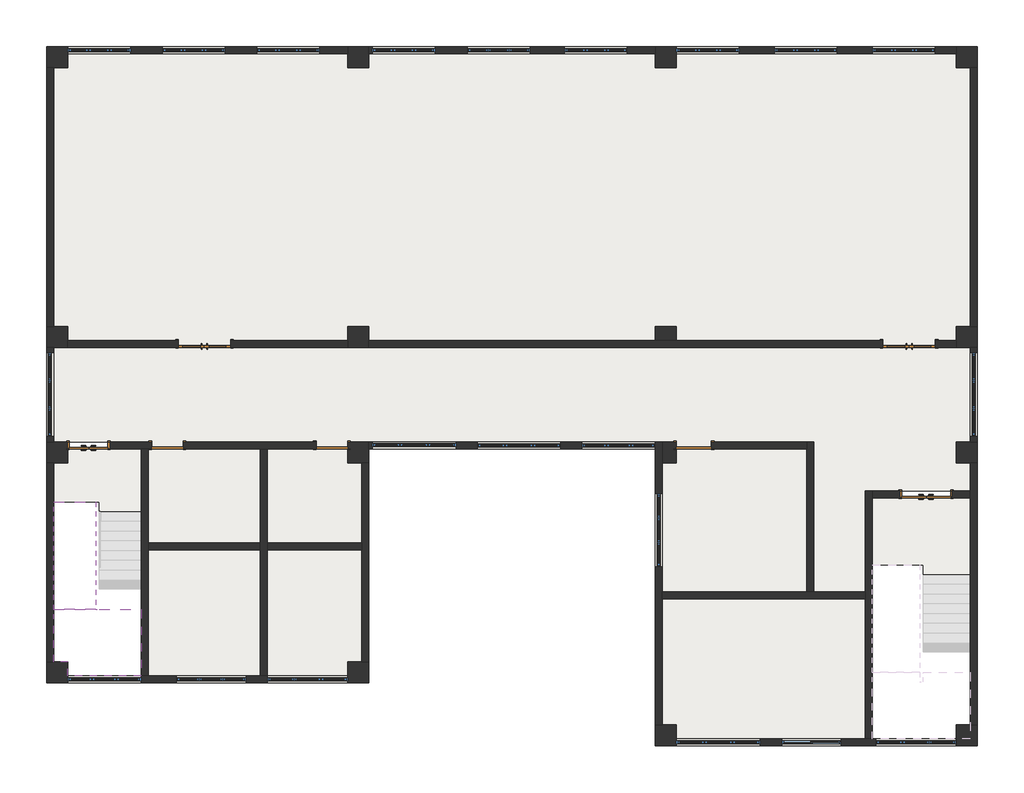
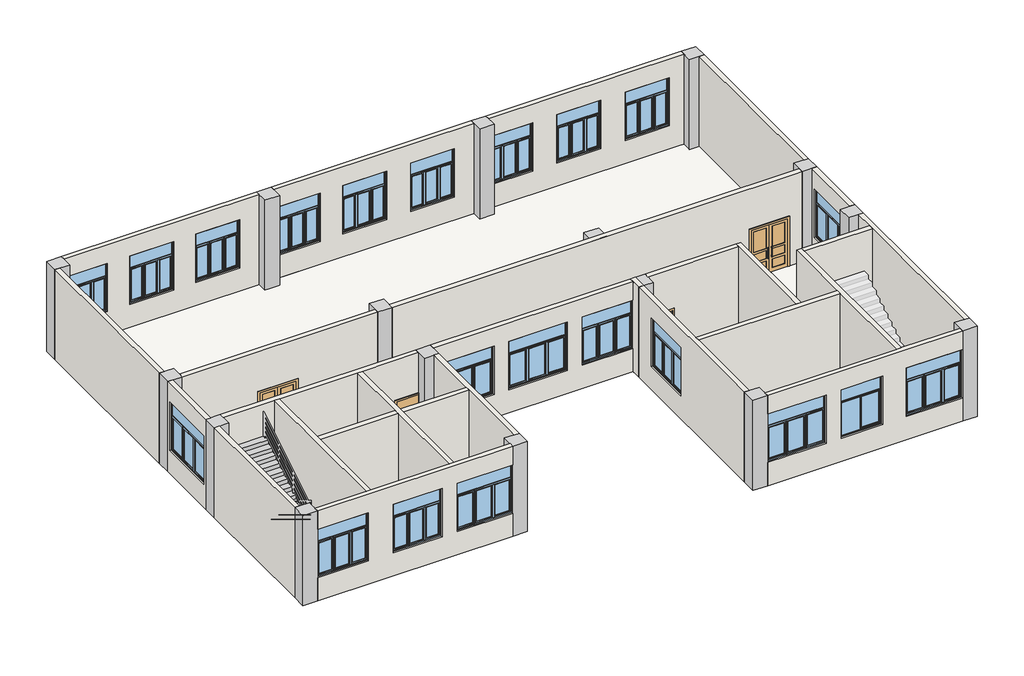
# One storey, part 1 of 3: 25 walls, 21 windows, 16 columns, 7 doors, 4 slabs, 1 stair flight.
"""IFC4 building model written with IfcOpenShell, lengths in millimetres."""

from ifc_helpers import new_model, si_unit, frame, origin, place, context, project, spatial, polyline, outline, extrude, faceted_brep, transform, mapped, element, save
from components import column_600x600_05fc6456, fm1221_e838069c, fm1521_f2745f28, m0921_bb00f214, m0921_8cb0c558, m1021_0d59c61f, m1221_b3a166ca, m1521_8e1836e7, c1721_525d0301, c1821_f95a3a67, c2021_733b1f83, c2121_4e8fcc55, c2321_a531f027, c2421_0f87a412

model = new_model("IFC4")

# Units and contexts
model_context = context("Model", 3, world=origin())
ifc_project = project(units=[si_unit("LENGTHUNIT", "METRE", prefix="MILLI")], contexts=[model_context])

# Site, building, storey
site = spatial("IfcSite", under=ifc_project)
building = spatial("IfcBuilding", under=site)
storey = spatial("IfcBuildingStorey", under=building, Name="标高 5", Elevation=11000.0)

# Columns
placement = place(None, origin())
column_600x600_shape = column_600x600_05fc6456(model_context)
element("IfcColumn", 1, ObjectType="混凝土 - 矩形 - 柱 : 600x600", at=placement, inside=storey, context=model_context, shape_type="MappedRepresentation", body=[
    mapped(column_600x600_shape, transform((-12381.7675258, -8436.6725016, 0.0), x_axis=(1.0, 0.0, 0.0), y_axis=(0.0, 1.0, 0.0), z_axis=(0.0, 0.0, 1.0))),
])
element("IfcColumn", 2, ObjectType="混凝土 - 矩形 - 柱 : 600x600", at=placement, inside=storey, context=model_context, shape_type="MappedRepresentation", body=[
    mapped(column_600x600_shape, transform((-12381.7675258, -2136.6725016, 0.0), x_axis=(1.0, 0.0, 0.0), y_axis=(0.0, 1.0, 0.0), z_axis=(0.0, 0.0, 1.0))),
])
element("IfcColumn", 3, ObjectType="混凝土 - 矩形 - 柱 : 600x600", at=placement, inside=storey, context=model_context, shape_type="MappedRepresentation", body=[
    mapped(column_600x600_shape, transform((-12381.7675258, 1163.3274984, 0.0), x_axis=(1.0, 0.0, 0.0), y_axis=(0.0, 1.0, 0.0), z_axis=(0.0, 0.0, 1.0))),
])
element("IfcColumn", 4, ObjectType="混凝土 - 矩形 - 柱 : 600x600", at=placement, inside=storey, context=model_context, shape_type="MappedRepresentation", body=[
    mapped(column_600x600_shape, transform((-12381.7675258, 9163.3274984, 0.0), x_axis=(1.0, 0.0, 0.0), y_axis=(0.0, 1.0, 0.0), z_axis=(0.0, 0.0, 1.0))),
])
element("IfcColumn", 5, ObjectType="混凝土 - 矩形 - 柱 : 600x600", at=placement, inside=storey, context=model_context, shape_type="MappedRepresentation", body=[
    mapped(column_600x600_shape, transform((-3781.7675258, -8436.6725016, 0.0), x_axis=(1.0, 0.0, 0.0), y_axis=(0.0, 1.0, 0.0), z_axis=(0.0, 0.0, 1.0))),
])
element("IfcColumn", 6, ObjectType="混凝土 - 矩形 - 柱 : 600x600", at=placement, inside=storey, context=model_context, shape_type="MappedRepresentation", body=[
    mapped(column_600x600_shape, transform((-3781.7675258, -2136.6725016, 0.0), x_axis=(1.0, 0.0, 0.0), y_axis=(0.0, 1.0, 0.0), z_axis=(0.0, 0.0, 1.0))),
])
element("IfcColumn", 7, ObjectType="混凝土 - 矩形 - 柱 : 600x600", at=placement, inside=storey, context=model_context, shape_type="MappedRepresentation", body=[
    mapped(column_600x600_shape, transform((-3781.7675258, 1163.3274984, 0.0), x_axis=(1.0, 0.0, 0.0), y_axis=(0.0, 1.0, 0.0), z_axis=(0.0, 0.0, 1.0))),
])
element("IfcColumn", 8, ObjectType="混凝土 - 矩形 - 柱 : 600x600", at=placement, inside=storey, context=model_context, shape_type="MappedRepresentation", body=[
    mapped(column_600x600_shape, transform((-3781.7675258, 9163.3274984, 0.0), x_axis=(1.0, 0.0, 0.0), y_axis=(0.0, 1.0, 0.0), z_axis=(0.0, 0.0, 1.0))),
])
element("IfcColumn", 9, ObjectType="混凝土 - 矩形 - 柱 : 600x600", at=placement, inside=storey, context=model_context, shape_type="MappedRepresentation", body=[
    mapped(column_600x600_shape, transform((5018.2324742, -10236.6725016, 0.0), x_axis=(1.0, 0.0, 0.0), y_axis=(0.0, 1.0, 0.0), z_axis=(0.0, 0.0, 1.0))),
])
element("IfcColumn", 10, ObjectType="混凝土 - 矩形 - 柱 : 600x600", at=placement, inside=storey, context=model_context, shape_type="MappedRepresentation", body=[
    mapped(column_600x600_shape, transform((5018.2324742, -2136.6725016, 0.0), x_axis=(1.0, 0.0, 0.0), y_axis=(0.0, 1.0, 0.0), z_axis=(0.0, 0.0, 1.0))),
])
element("IfcColumn", 11, ObjectType="混凝土 - 矩形 - 柱 : 600x600", at=placement, inside=storey, context=model_context, shape_type="MappedRepresentation", body=[
    mapped(column_600x600_shape, transform((5018.2324742, 1163.3274984, 0.0), x_axis=(1.0, 0.0, 0.0), y_axis=(0.0, 1.0, 0.0), z_axis=(0.0, 0.0, 1.0))),
])
element("IfcColumn", 12, ObjectType="混凝土 - 矩形 - 柱 : 600x600", at=placement, inside=storey, context=model_context, shape_type="MappedRepresentation", body=[
    mapped(column_600x600_shape, transform((5018.2324742, 9163.3274984, 0.0), x_axis=(1.0, 0.0, 0.0), y_axis=(0.0, 1.0, 0.0), z_axis=(0.0, 0.0, 1.0))),
])
element("IfcColumn", 13, ObjectType="混凝土 - 矩形 - 柱 : 600x600", at=placement, inside=storey, context=model_context, shape_type="MappedRepresentation", body=[
    mapped(column_600x600_shape, transform((13618.2324742, -10236.6725016, 0.0), x_axis=(1.0, 0.0, 0.0), y_axis=(0.0, 1.0, 0.0), z_axis=(0.0, 0.0, 1.0))),
])
element("IfcColumn", 14, ObjectType="混凝土 - 矩形 - 柱 : 600x600", at=placement, inside=storey, context=model_context, shape_type="MappedRepresentation", body=[
    mapped(column_600x600_shape, transform((13618.2324742, -2136.6725016, 0.0), x_axis=(1.0, 0.0, 0.0), y_axis=(0.0, 1.0, 0.0), z_axis=(0.0, 0.0, 1.0))),
])
element("IfcColumn", 15, ObjectType="混凝土 - 矩形 - 柱 : 600x600", at=placement, inside=storey, context=model_context, shape_type="MappedRepresentation", body=[
    mapped(column_600x600_shape, transform((13618.2324742, 1163.3274984, 0.0), x_axis=(1.0, 0.0, 0.0), y_axis=(0.0, 1.0, 0.0), z_axis=(0.0, 0.0, 1.0))),
])
element("IfcColumn", 16, ObjectType="混凝土 - 矩形 - 柱 : 600x600", at=placement, inside=storey, context=model_context, shape_type="MappedRepresentation", body=[
    mapped(column_600x600_shape, transform((13618.2324742, 9163.3274984, 0.0), x_axis=(1.0, 0.0, 0.0), y_axis=(0.0, 1.0, 0.0), z_axis=(0.0, 0.0, 1.0))),
])

# Doors
fm1221_shape = fm1221_e838069c(model_context)
element("IfcDoor", 17, ObjectType="双扇防火门 : FM1221", at=placement, inside=storey, context=model_context, shape_type="MappedRepresentation", body=[
    mapped(fm1221_shape, transform((-11481.7675258, -1936.6725016, 11000.0), x_axis=(-1.0, 0.0, 0.0), y_axis=(0.0, -1.0, 0.0), z_axis=(0.0, 0.0, 1.0))),
])
fm1521_shape = fm1521_f2745f28(model_context)
element("IfcDoor", 18, ObjectType="双扇防火门 : FM1521", at=placement, inside=storey, context=model_context, shape_type="MappedRepresentation", body=[
    mapped(fm1521_shape, transform((12448.2324742, -3336.6725016, 11000.0), x_axis=(-1.0, 0.0, 0.0), y_axis=(0.0, -1.0, 0.0), z_axis=(0.0, 0.0, 1.0))),
])
m0921_shape = m0921_bb00f214(model_context)
element("IfcDoor", 19, ObjectType="单扇 - 与墙齐 : M0921", at=placement, inside=storey, context=model_context, shape_type="MappedRepresentation", body=[
    mapped(m0921_shape, transform((-4531.7675258, -1936.6725016, 11000.0), x_axis=(1.0, 0.0, 0.0), y_axis=(0.0, 1.0, 0.0), z_axis=(0.0, 0.0, 1.0))),
])
m0921_2_shape = m0921_8cb0c558(model_context)
element("IfcDoor", 20, ObjectType="单扇 - 与墙齐 : M0921", at=placement, inside=storey, context=model_context, shape_type="MappedRepresentation", body=[
    mapped(m0921_2_shape, transform((-9231.7675258, -1936.6725016, 11000.0), x_axis=(-1.0, 0.0, 0.0), y_axis=(0.0, -1.0, 0.0), z_axis=(0.0, 0.0, 1.0))),
])
m1021_shape = m1021_0d59c61f(model_context)
element("IfcDoor", 21, ObjectType="单扇 - 与墙齐 : M1021", at=placement, inside=storey, context=model_context, shape_type="MappedRepresentation", body=[
    mapped(m1021_shape, transform((5818.2324742, -1936.6725016, 11000.0), x_axis=(-1.0, 0.0, 0.0), y_axis=(0.0, -1.0, 0.0), z_axis=(0.0, 0.0, 1.0))),
])
m1221_shape = m1221_b3a166ca(model_context)
m1521_shape = m1521_8e1836e7(model_context)
element("IfcDoor", 22, ObjectType="双面嵌板木门 2 : M1521", at=placement, inside=storey, context=model_context, shape_type="MappedRepresentation", body=[
    mapped(m1221_shape, transform((-8171.7675258, 963.3274984, 11000.0), x_axis=(-1.0, 0.0, 0.0), y_axis=(0.0, -1.0, 0.0), z_axis=(0.0, 0.0, 1.0))),
    mapped(m1521_shape, transform((-8171.7675258, 963.3274984, 11000.0), x_axis=(-1.0, 0.0, 0.0), y_axis=(0.0, -1.0, 0.0), z_axis=(0.0, 0.0, 1.0))),
])
element("IfcDoor", 23, ObjectType="双面嵌板木门 2 : M1521", at=placement, inside=storey, context=model_context, shape_type="MappedRepresentation", body=[
    mapped(m1221_shape, transform((11968.2324742, 963.3274984, 11000.0), x_axis=(-1.0, 0.0, 0.0), y_axis=(0.0, -1.0, 0.0), z_axis=(0.0, 0.0, 1.0))),
    mapped(m1521_shape, transform((11968.2324742, 963.3274984, 11000.0), x_axis=(-1.0, 0.0, 0.0), y_axis=(0.0, -1.0, 0.0), z_axis=(0.0, 0.0, 1.0))),
])

# Slabs
element("IfcSlab", 24, ObjectType="楼板-120", at=placement, inside=storey, context=model_context, shape_type="SweptSolid", body=[
    extrude(outline(polyline([(13718.2324742, 9263.3274984), (13718.2324742, -3236.6725016), (10718.2324742, -3236.6725016), (10718.2324742, -10336.6725016), (4918.2324742, -10336.6725016), (4918.2324742, -1836.6725016), (-3681.7675258, -1836.6725016), (-3681.7675258, -8536.6725016), (-9781.7675258, -8536.6725016), (-9781.7675258, -1836.6725016), (-12481.7675258, -1836.6725016), (-12481.7675258, 9263.3274984), (13718.2324742, 9263.3274984)])), frame((0.0, 0.0, 10880.0), z_axis=(0.0, 0.0, 1.0), x_axis=(1.0, 0.0, 0.0)), (0.0, 0.0, 1.0), 120.0),
])
element("IfcSlab", 25, ObjectType="楼板-120", at=placement, inside=storey, context=model_context, shape_type="SweptSolid", body=[
    extrude(outline(polyline([(-9987.1675258, -3836.6725016), (-11171.3675258, -3836.6725016), (-11171.3675258, -3556.6725016), (-12476.3675258, -3556.6725016), (-12476.3675258, -2436.6725016), (-12081.7675258, -2436.6725016), (-12081.7675258, -2030.3725016), (-9981.7486258, -2030.3725016), (-9987.1675258, -3836.6725016)])), frame((0.0, 0.0, 10880.0), z_axis=(0.0, 0.0, 1.0), x_axis=(1.0, 0.0, 0.0)), (0.0, 0.0, 1.0), 120.0),
])
element("IfcSlab", 26, ObjectType="楼板-120", at=placement, inside=storey, context=model_context, shape_type="SweptSolid", body=[
    extrude(outline(polyline([(13718.2324742, -3436.6725016), (13718.2324742, -5636.6725016), (12368.2324742, -5636.6725016), (12368.2324742, -5356.6725016), (10913.6324742, -5356.6725016), (10913.6324742, -3436.6725016), (13718.2324742, -3436.6725016)])), frame((0.0, 0.0, 10880.0), z_axis=(0.0, 0.0, 1.0), x_axis=(1.0, 0.0, 0.0)), (0.0, 0.0, 1.0), 120.0),
])
element("IfcSlab", 27, ObjectType="150", at=placement, inside=storey, context=model_context, shape_type="Brep", body=[
    faceted_brep([(-9981.7675258, -6636.6725016, 12865.2173913), (-11181.7675258, -6636.6725016, 12865.2173913), (-11281.7675258, -6636.6725016, 12865.2173913), (-12481.7675258, -6636.6725016, 12865.2173913), (-12481.7675258, -6900.4001578, 12865.2173913), (-12481.7675258, -8136.6725016, 12865.2173913), (-12081.7675258, -8136.6725016, 12865.2173913), (-12081.7675258, -8536.6725016, 12865.2173913), (-9981.7675258, -8536.6725016, 12865.2173913), (-9981.7675258, -6652.9448454, 12865.2173913), (-12481.7675258, -8136.6725016, 12565.2173913), (-12081.7675258, -8136.6725016, 12565.2173913), (-12081.7675258, -8536.6725016, 12565.2173913), (-9981.7675258, -8536.6725016, 12565.2173913), (-9981.7675258, -6636.6725016, 12555.3630216), (-9981.7675258, -6636.6725016, 12695.6521739), (-9981.7675258, -6652.9448454, 12565.2173913), (-12481.7675258, -6636.6725016, 12724.928239), (-12481.7675258, -6900.4001578, 12565.2173913), (-11281.7675258, -6900.4001578, 12565.2173913), (-11281.7675258, -6636.6725016, 12724.928239), (-11181.7675258, -6636.6725016, 12555.3630216), (-11181.7675258, -6636.6725016, 12565.2173913), (-11281.7675258, -6636.6725016, 12565.2173913), (-11181.7675258, -6652.9448454, 12565.2173913)], [[[0, 1, 2, 3, 4, 5, 6, 7, 8, 9]], [[6, 5, 10, 11]], [[7, 6, 11, 12]], [[8, 7, 12, 13]], [[14, 15, 0, 9, 8, 13, 16]], [[3, 17, 18, 10, 5, 4]], [[19, 18, 17, 20]], [[1, 0, 15, 14, 21, 22]], [[2, 1, 22, 23, 20]], [[3, 2, 20, 17]], [[19, 23, 22, 24, 16, 13, 12, 11, 10, 18]], [[23, 19, 20]], [[16, 24, 21, 14]], [[24, 22, 21]]]),
])

# Stair flight
element("IfcStairFlight", 28, ObjectType="150", at=placement, inside=storey, context=model_context, shape_type="Brep", body=[
    faceted_brep([(-12481.7675258, -6356.6725016, 13034.7826087), (-12481.7675258, -6636.6725016, 13034.7826087), (-11281.7675258, -6636.6725016, 13034.7826087), (-11281.7675258, -6356.6725016, 13034.7826087), (-12481.7675258, -6356.6725016, 12894.4934564), (-12481.7675258, -6636.6725016, 12724.928239), (-12481.7675258, -6636.6725016, 12865.2173913), (-11281.7675258, -6636.6725016, 12724.928239), (-11281.7675258, -6356.6725016, 12894.4934564), (-12481.7675258, -6076.6725016, 13204.3478261), (-12481.7675258, -6356.6725016, 13204.3478261), (-11281.7675258, -6356.6725016, 13204.3478261), (-11281.7675258, -6076.6725016, 13204.3478261), (-12481.7675258, -6076.6725016, 13064.0586738), (-11281.7675258, -6076.6725016, 13064.0586738), (-12481.7675258, -5796.6725016, 13373.9130435), (-12481.7675258, -6076.6725016, 13373.9130435), (-11281.7675258, -6076.6725016, 13373.9130435), (-11281.7675258, -5796.6725016, 13373.9130435), (-12481.7675258, -5796.6725016, 13233.6238912), (-11281.7675258, -5796.6725016, 13233.6238912), (-12481.7675258, -5516.6725016, 13543.4782609), (-12481.7675258, -5796.6725016, 13543.4782609), (-11281.7675258, -5796.6725016, 13543.4782609), (-11281.7675258, -5516.6725016, 13543.4782609), (-12481.7675258, -5516.6725016, 13403.1891086), (-11281.7675258, -5516.6725016, 13403.1891086), (-12481.7675258, -5236.6725016, 13713.0434783), (-12481.7675258, -5516.6725016, 13713.0434783), (-11281.7675258, -5516.6725016, 13713.0434783), (-11281.7675258, -5236.6725016, 13713.0434783), (-12481.7675258, -5236.6725016, 13572.754326), (-11281.7675258, -5236.6725016, 13572.754326), (-12481.7675258, -4956.6725016, 13882.6086957), (-12481.7675258, -5236.6725016, 13882.6086957), (-11281.7675258, -5236.6725016, 13882.6086957), (-11281.7675258, -4956.6725016, 13882.6086957), (-12481.7675258, -4956.6725016, 13742.3195433), (-11281.7675258, -4956.6725016, 13742.3195433), (-12481.7675258, -4676.6725016, 14052.173913), (-12481.7675258, -4956.6725016, 14052.173913), (-11281.7675258, -4956.6725016, 14052.173913), (-11281.7675258, -4676.6725016, 14052.173913), (-12481.7675258, -4676.6725016, 13911.8847607), (-11281.7675258, -4676.6725016, 13911.8847607), (-12481.7675258, -4396.6725016, 14221.7391304), (-12481.7675258, -4676.6725016, 14221.7391304), (-11281.7675258, -4676.6725016, 14221.7391304), (-11281.7675258, -4396.6725016, 14221.7391304), (-12481.7675258, -4396.6725016, 14081.4499781), (-11281.7675258, -4396.6725016, 14081.4499781), (-12481.7675258, -4116.6725016, 14391.3043478), (-12481.7675258, -4396.6725016, 14391.3043478), (-11281.7675258, -4396.6725016, 14391.3043478), (-11281.7675258, -4116.6725016, 14391.3043478), (-12481.7675258, -4116.6725016, 14251.0151955), (-11281.7675258, -4116.6725016, 14251.0151955), (-12481.7675258, -3836.6725016, 14560.8695652), (-12481.7675258, -4116.6725016, 14560.8695652), (-11281.7675258, -4116.6725016, 14560.8695652), (-11281.7675258, -3836.6725016, 14560.8695652), (-12481.7675258, -3836.6725016, 14420.5804129), (-11281.7675258, -3836.6725016, 14420.5804129), (-12481.7675258, -3556.6725016, 14730.4347826), (-12481.7675258, -3836.6725016, 14730.4347826), (-11281.7675258, -3836.6725016, 14730.4347826), (-11281.7675258, -3556.6725016, 14730.4347826), (-12481.7675258, -3556.6725016, 14590.1456303), (-11281.7675258, -3556.6725016, 14590.1456303)], [[[0, 1, 2, 3]], [[1, 0, 4, 5, 6]], [[2, 1, 6, 5, 7]], [[3, 2, 7, 8]], [[9, 10, 11, 12]], [[10, 9, 13, 4, 0]], [[11, 10, 0, 3]], [[12, 11, 3, 8, 14]], [[15, 16, 17, 18]], [[16, 15, 19, 13, 9]], [[17, 16, 9, 12]], [[18, 17, 12, 14, 20]], [[21, 22, 23, 24]], [[22, 21, 25, 19, 15]], [[23, 22, 15, 18]], [[24, 23, 18, 20, 26]], [[27, 28, 29, 30]], [[28, 27, 31, 25, 21]], [[29, 28, 21, 24]], [[30, 29, 24, 26, 32]], [[33, 34, 35, 36]], [[34, 33, 37, 31, 27]], [[35, 34, 27, 30]], [[36, 35, 30, 32, 38]], [[39, 40, 41, 42]], [[40, 39, 43, 37, 33]], [[41, 40, 33, 36]], [[42, 41, 36, 38, 44]], [[45, 46, 47, 48]], [[46, 45, 49, 43, 39]], [[47, 46, 39, 42]], [[48, 47, 42, 44, 50]], [[51, 52, 53, 54]], [[52, 51, 55, 49, 45]], [[53, 52, 45, 48]], [[54, 53, 48, 50, 56]], [[57, 58, 59, 60]], [[58, 57, 61, 55, 51]], [[59, 58, 51, 54]], [[60, 59, 54, 56, 62]], [[63, 64, 65, 66]], [[64, 63, 67, 61, 57]], [[65, 64, 57, 60]], [[66, 65, 60, 62, 68]], [[63, 66, 68, 67]], [[5, 4, 13, 19, 25, 31, 37, 43, 49, 55, 61, 67, 68, 62, 56, 50, 44, 38, 32, 26, 20, 14, 8, 7]]]),
])

# Walls
element("IfcWall", 29, ObjectType="Q-200", at=placement, inside=storey, context=model_context, shape_type="SweptSolid", body=[
    extrude(outline(polyline([(14900.0, -12081.7675258), (14100.0, -12081.7675258), (14100.0, -10281.7675258), (12000.0, -10281.7675258), (12000.0, -12081.7675258), (11000.0, -12081.7675258), (11000.0, -4081.7675258), (14900.0, -4081.7675258), (14900.0, -12081.7675258)]), holes=[polyline([(12000.0, -6681.7675258), (14100.0, -6681.7675258), (14100.0, -4881.7675258), (12000.0, -4881.7675258), (12000.0, -6681.7675258)]), polyline([(12000.0, -9381.7675258), (14100.0, -9381.7675258), (14100.0, -7581.7675258), (12000.0, -7581.7675258), (12000.0, -9381.7675258)])]), frame((0.0, 9263.3274984, 0.0), z_axis=(0.0, 1.0, 0.0), x_axis=(0.0, 0.0, 1.0)), (0.0, 0.0, 1.0), 200.0),
])
element("IfcWall", 30, ObjectType="Q-200", at=placement, inside=storey, context=model_context, shape_type="SweptSolid", body=[
    extrude(outline(polyline([(11000.0, -3481.7675258), (11000.0, 4718.2324742), (14900.0, 4718.2324742), (14900.0, -3481.7675258), (11000.0, -3481.7675258)]), holes=[polyline([(12000.0, 2118.2324742), (14100.0, 2118.2324742), (14100.0, 3918.2324742), (12000.0, 3918.2324742), (12000.0, 2118.2324742)]), polyline([(12000.0, -661.7675258), (14100.0, -661.7675258), (14100.0, 1138.2324742), (12000.0, 1138.2324742), (12000.0, -661.7675258)]), polyline([(12000.0, -3381.7675258), (14100.0, -3381.7675258), (14100.0, -1581.7675258), (12000.0, -1581.7675258), (12000.0, -3381.7675258)])]), frame((0.0, 9263.3274984, 0.0), z_axis=(0.0, 1.0, 0.0), x_axis=(0.0, 0.0, 1.0)), (0.0, 0.0, 1.0), 200.0),
])
element("IfcWall", 31, ObjectType="Q-200", at=placement, inside=storey, context=model_context, shape_type="SweptSolid", body=[
    extrude(outline(polyline([(11000.0, 5318.2324742), (11000.0, 13318.2324742), (14900.0, 13318.2324742), (14900.0, 5318.2324742), (14100.0, 5318.2324742), (14100.0, 7118.2324742), (12000.0, 7118.2324742), (12000.0, 5318.2324742), (11000.0, 5318.2324742)]), holes=[polyline([(12000.0, 10918.2324742), (14100.0, 10918.2324742), (14100.0, 12718.2324742), (12000.0, 12718.2324742), (12000.0, 10918.2324742)]), polyline([(12000.0, 8118.2324742), (14100.0, 8118.2324742), (14100.0, 9918.2324742), (12000.0, 9918.2324742), (12000.0, 8118.2324742)])]), frame((0.0, 9263.3274984, 0.0), z_axis=(0.0, 1.0, 0.0), x_axis=(0.0, 0.0, 1.0)), (0.0, 0.0, 1.0), 200.0),
])
element("IfcWall", 32, ObjectType="Q-200", at=placement, inside=storey, context=model_context, shape_type="SweptSolid", body=[
    extrude(outline(polyline([(13718.2324742, 1463.3274984), (13718.2324742, 8863.3274984), (13918.2324742, 8863.3274984), (13918.2324742, 1463.3274984), (13718.2324742, 1463.3274984)])), frame((0.0, 0.0, 11000.0), z_axis=(0.0, 0.0, 1.0), x_axis=(1.0, 0.0, 0.0)), (0.0, 0.0, 1.0), 3900.0),
])
element("IfcWall", 33, ObjectType="Q-200", at=placement, inside=storey, context=model_context, shape_type="SweptSolid", body=[
    extrude(outline(polyline([(863.3274984, 11000.0), (-1836.6725016, 11000.0), (-1836.6725016, 14900.0), (863.3274984, 14900.0), (863.3274984, 11000.0)]), holes=[polyline([(713.3274984, 12000.0), (713.3274984, 14100.0), (-1686.6725016, 14100.0), (-1686.6725016, 12000.0), (713.3274984, 12000.0)])]), frame((13718.2324742, 0.0, 0.0), z_axis=(1.0, 0.0, 0.0), x_axis=(0.0, 1.0, 0.0)), (0.0, 0.0, 1.0), 200.0),
])
element("IfcWall", 34, ObjectType="Q-200", at=placement, inside=storey, context=model_context, shape_type="Brep", body=[
    faceted_brep([(13718.2324742, -2436.6725016, 11000.0), (13718.2324742, -3236.6725016, 11000.0), (13718.2324742, -3436.6725016, 11000.0), (13718.2324742, -9936.6725016, 11000.0), (13718.2324742, -9936.6725016, 14900.0), (13718.2324742, -3436.6725016, 14900.0), (13718.2324742, -3236.6725016, 14900.0), (13718.2324742, -2436.6725016, 14900.0), (13918.2324742, -2436.6725016, 11000.0), (13918.2324742, -2436.6725016, 14900.0), (13918.2324742, -9936.6725016, 14900.0), (13918.2324742, -9936.6725016, 11000.0)], [[[0, 1, 2, 3, 4, 5, 6, 7]], [[8, 9, 10, 11]], [[3, 2, 1, 0, 8, 11]], [[4, 3, 11, 10]], [[7, 6, 5, 4, 10, 9]], [[0, 7, 9, 8]]]),
])
element("IfcWall", 35, ObjectType="Q-200", at=placement, inside=storey, context=model_context, shape_type="Brep", body=[
    faceted_brep([(5318.2324742, -10336.6725016, 11000.0), (5318.2324742, -10336.6725016, 12000.0), (7718.2324742, -10336.6725016, 12000.0), (7718.2324742, -10336.6725016, 14100.0), (5318.2324742, -10336.6725016, 14100.0), (5318.2324742, -10336.6725016, 14900.0), (10718.2324742, -10336.6725016, 14900.0), (10918.2324742, -10336.6725016, 14900.0), (13318.2324742, -10336.6725016, 14900.0), (13318.2324742, -10336.6725016, 11000.0), (10918.2324742, -10336.6725016, 11000.0), (10718.2324742, -10336.6725016, 11000.0), (13308.2324742, -10336.6725016, 12000.0), (13308.2324742, -10336.6725016, 14100.0), (11008.2324742, -10336.6725016, 14100.0), (11008.2324742, -10336.6725016, 12000.0), (10028.2324742, -10336.6725016, 12000.0), (10028.2324742, -10336.6725016, 14100.0), (8328.2324742, -10336.6725016, 14100.0), (8328.2324742, -10336.6725016, 12000.0), (7718.2324742, -10536.6725016, 12000.0), (5318.2324742, -10536.6725016, 12000.0), (5318.2324742, -10536.6725016, 11000.0), (13318.2324742, -10536.6725016, 11000.0), (13318.2324742, -10536.6725016, 14900.0), (5318.2324742, -10536.6725016, 14900.0), (5318.2324742, -10536.6725016, 14100.0), (7718.2324742, -10536.6725016, 14100.0), (13308.2324742, -10536.6725016, 12000.0), (11008.2324742, -10536.6725016, 12000.0), (11008.2324742, -10536.6725016, 14100.0), (13308.2324742, -10536.6725016, 14100.0), (10028.2324742, -10536.6725016, 12000.0), (8328.2324742, -10536.6725016, 12000.0), (8328.2324742, -10536.6725016, 14100.0), (10028.2324742, -10536.6725016, 14100.0)], [[[0, 1, 2, 3, 4, 5, 6, 7, 8, 9, 10, 11], [12, 13, 14, 15], [16, 17, 18, 19]], [[20, 21, 22, 23, 24, 25, 26, 27], [28, 29, 30, 31], [32, 33, 34, 35]], [[0, 11, 10, 9, 23, 22]], [[26, 25, 5, 4]], [[22, 21, 1, 0]], [[8, 7, 6, 5, 25, 24]], [[9, 8, 24, 23]], [[3, 2, 20, 27]], [[4, 3, 27, 26]], [[2, 1, 21, 20]], [[13, 12, 28, 31]], [[14, 13, 31, 30]], [[15, 14, 30, 29]], [[12, 15, 29, 28]], [[17, 16, 32, 35]], [[18, 17, 35, 34]], [[19, 18, 34, 33]], [[16, 19, 33, 32]]]),
])
element("IfcWall", 36, ObjectType="Q-200", at=placement, inside=storey, context=model_context, shape_type="Brep", body=[
    faceted_brep([(4918.2324742, -9936.6725016, 11000.0), (4918.2324742, -6336.6725016, 11000.0), (4918.2324742, -6136.6725016, 11000.0), (4918.2324742, -1836.6725016, 11000.0), (4918.2324742, -1836.6725016, 14900.0), (4918.2324742, -6136.6725016, 14900.0), (4918.2324742, -6336.6725016, 14900.0), (4918.2324742, -9936.6725016, 14900.0), (4918.2324742, -3316.6725016, 12000.0), (4918.2324742, -5416.6725016, 12000.0), (4918.2324742, -5416.6725016, 14100.0), (4918.2324742, -3316.6725016, 14100.0), (4718.2324742, -9936.6725016, 11000.0), (4718.2324742, -9936.6725016, 14900.0), (4718.2324742, -2036.6725016, 14900.0), (4718.2324742, -1836.6725016, 14900.0), (4718.2324742, -1836.6725016, 14100.0), (4718.2324742, -1836.6725016, 12000.0), (4718.2324742, -1836.6725016, 11000.0), (4718.2324742, -2036.6725016, 11000.0), (4718.2324742, -3316.6725016, 12000.0), (4718.2324742, -3316.6725016, 14100.0), (4718.2324742, -5416.6725016, 14100.0), (4718.2324742, -5416.6725016, 12000.0)], [[[0, 1, 2, 3, 4, 5, 6, 7], [8, 9, 10, 11]], [[12, 13, 14, 15, 16, 17, 18, 19], [20, 21, 22, 23]], [[3, 2, 1, 0, 12, 19, 18]], [[7, 6, 5, 4, 15, 14, 13]], [[0, 7, 13, 12]], [[4, 3, 18, 17, 16, 15]], [[21, 20, 8, 11]], [[22, 21, 11, 10]], [[23, 22, 10, 9]], [[20, 23, 9, 8]]]),
])
element("IfcWall", 37, ObjectType="Q-200", at=placement, inside=storey, context=model_context, shape_type="SweptSolid", body=[
    extrude(outline(polyline([(11000.0, 4718.2324742), (12000.0, 4718.2324742), (12000.0, 2618.2324742), (14100.0, 2618.2324742), (14100.0, 4718.2324742), (14900.0, 4718.2324742), (14900.0, -3481.7675258), (11000.0, -3481.7675258), (11000.0, 4718.2324742)]), holes=[polyline([(12000.0, -981.7675258), (12000.0, -3381.7675258), (14100.0, -3381.7675258), (14100.0, -981.7675258), (12000.0, -981.7675258)]), polyline([(12000.0, -381.7675258), (14100.0, -381.7675258), (14100.0, 2018.2324742), (12000.0, 2018.2324742), (12000.0, -381.7675258)])]), frame((0.0, -2036.6725016, 0.0), z_axis=(0.0, 1.0, 0.0), x_axis=(0.0, 0.0, 1.0)), (0.0, 0.0, 1.0), 200.0),
])
element("IfcWall", 38, ObjectType="Q-200", at=placement, inside=storey, context=model_context, shape_type="Brep", body=[
    faceted_brep([(-3681.7675258, -2436.6725016, 11000.0), (-3681.7675258, -4736.6725016, 11000.0), (-3681.7675258, -4936.6725016, 11000.0), (-3681.7675258, -8136.6725016, 11000.0), (-3681.7675258, -8136.6725016, 14900.0), (-3681.7675258, -4936.6725016, 14900.0), (-3681.7675258, -4736.6725016, 14900.0), (-3681.7675258, -2436.6725016, 14900.0), (-3481.7675258, -2436.6725016, 11000.0), (-3481.7675258, -2436.6725016, 14900.0), (-3481.7675258, -8136.6725016, 14900.0), (-3481.7675258, -8136.6725016, 11000.0)], [[[0, 1, 2, 3, 4, 5, 6, 7]], [[8, 9, 10, 11]], [[3, 2, 1, 0, 8, 11]], [[4, 3, 11, 10]], [[7, 6, 5, 4, 10, 9]], [[0, 7, 9, 8]]]),
])
element("IfcWall", 39, ObjectType="Q-200", at=placement, inside=storey, context=model_context, shape_type="Brep", body=[
    faceted_brep([(-12081.7675258, -8536.6725016, 11000.0), (-12081.7675258, -8536.6725016, 12000.0), (-9981.7675258, -8536.6725016, 12000.0), (-9981.7675258, -8536.6725016, 14100.0), (-12081.7675258, -8536.6725016, 14100.0), (-12081.7675258, -8536.6725016, 14900.0), (-9981.7675258, -8536.6725016, 14900.0), (-9781.7675258, -8536.6725016, 14900.0), (-6581.7675258, -8536.6725016, 14900.0), (-6381.7675258, -8536.6725016, 14900.0), (-4081.7675258, -8536.6725016, 14900.0), (-4081.7675258, -8536.6725016, 14100.0), (-6373.5634478, -8536.6725016, 14100.0), (-6373.5634478, -8536.6725016, 12000.0), (-4081.7675258, -8536.6725016, 12000.0), (-4081.7675258, -8536.6725016, 11000.0), (-6381.7675258, -8536.6725016, 11000.0), (-6581.7675258, -8536.6725016, 11000.0), (-9781.7675258, -8536.6725016, 11000.0), (-9981.7675258, -8536.6725016, 11000.0), (-6981.7675258, -8536.6725016, 12000.0), (-6981.7675258, -8536.6725016, 14100.0), (-8981.7675258, -8536.6725016, 14100.0), (-8981.7675258, -8536.6725016, 12000.0), (-9981.7675258, -8736.6725016, 12000.0), (-12081.7675258, -8736.6725016, 12000.0), (-12081.7675258, -8736.6725016, 11000.0), (-4081.7675258, -8736.6725016, 11000.0), (-4081.7675258, -8736.6725016, 12000.0), (-6373.5634478, -8736.6725016, 12000.0), (-6373.5634478, -8736.6725016, 14100.0), (-4081.7675258, -8736.6725016, 14100.0), (-4081.7675258, -8736.6725016, 14900.0), (-12081.7675258, -8736.6725016, 14900.0), (-12081.7675258, -8736.6725016, 14100.0), (-9981.7675258, -8736.6725016, 14100.0), (-6981.7675258, -8736.6725016, 12000.0), (-8981.7675258, -8736.6725016, 12000.0), (-8981.7675258, -8736.6725016, 14100.0), (-6981.7675258, -8736.6725016, 14100.0)], [[[0, 1, 2, 3, 4, 5, 6, 7, 8, 9, 10, 11, 12, 13, 14, 15, 16, 17, 18, 19], [20, 21, 22, 23]], [[24, 25, 26, 27, 28, 29, 30, 31, 32, 33, 34, 35], [36, 37, 38, 39]], [[0, 19, 18, 17, 16, 15, 27, 26]], [[34, 33, 5, 4]], [[26, 25, 1, 0]], [[10, 9, 8, 7, 6, 5, 33, 32]], [[10, 32, 31, 11]], [[27, 15, 14, 28]], [[30, 12, 11, 31]], [[12, 30, 29, 13]], [[13, 29, 28, 14]], [[21, 20, 36, 39]], [[22, 21, 39, 38]], [[23, 22, 38, 37]], [[20, 23, 37, 36]], [[3, 2, 24, 35]], [[4, 3, 35, 34]], [[2, 1, 25, 24]]]),
])
element("IfcWall", 40, ObjectType="Q-200", at=placement, inside=storey, context=model_context, shape_type="SweptSolid", body=[
    extrude(outline(polyline([(-12481.7675258, -2436.6725016), (-12481.7675258, -8136.6725016), (-12681.7675258, -8136.6725016), (-12681.7675258, -2436.6725016), (-12481.7675258, -2436.6725016)])), frame((0.0, 0.0, 11000.0), z_axis=(0.0, 0.0, 1.0), x_axis=(1.0, 0.0, 0.0)), (0.0, 0.0, 1.0), 3900.0),
])
element("IfcWall", 41, ObjectType="Q-200", at=placement, inside=storey, context=model_context, shape_type="SweptSolid", body=[
    extrude(outline(polyline([(-1836.6725016, 11000.0), (-1836.6725016, 14900.0), (863.3274984, 14900.0), (863.3274984, 11000.0), (-1836.6725016, 11000.0)]), holes=[polyline([(713.3274984, 12000.0), (713.3274984, 14100.0), (-1686.6725016, 14100.0), (-1686.6725016, 12000.0), (713.3274984, 12000.0)])]), frame((-12681.7675258, 0.0, 0.0), z_axis=(1.0, 0.0, 0.0), x_axis=(0.0, 1.0, 0.0)), (0.0, 0.0, 1.0), 200.0),
])
element("IfcWall", 42, ObjectType="Q-200", at=placement, inside=storey, context=model_context, shape_type="SweptSolid", body=[
    extrude(outline(polyline([(-12481.7675258, 8863.3274984), (-12481.7675258, 1463.3274984), (-12681.7675258, 1463.3274984), (-12681.7675258, 8863.3274984), (-12481.7675258, 8863.3274984)])), frame((0.0, 0.0, 11000.0), z_axis=(0.0, 0.0, 1.0), x_axis=(1.0, 0.0, 0.0)), (0.0, 0.0, 1.0), 3900.0),
])
element("IfcWall", 43, ObjectType="Q-200", at=placement, inside=storey, context=model_context, shape_type="SweptSolid", body=[
    extrude(outline(polyline([(11000.0, -4081.7675258), (14900.0, -4081.7675258), (14900.0, -12081.7675258), (11000.0, -12081.7675258), (11000.0, -8921.7675258), (13100.0, -8921.7675258), (13100.0, -7421.7675258), (11000.0, -7421.7675258), (11000.0, -4081.7675258)])), frame((0.0, 863.3274984, 0.0), z_axis=(0.0, 1.0, 0.0), x_axis=(0.0, 0.0, 1.0)), (0.0, 0.0, 1.0), 200.0),
])
element("IfcWall", 44, ObjectType="Q-200", at=placement, inside=storey, context=model_context, shape_type="SweptSolid", body=[
    extrude(outline(polyline([(11000.0, 13318.2324742), (14900.0, 13318.2324742), (14900.0, -3481.7675258), (11000.0, -3481.7675258), (11000.0, 11218.2324742), (13100.0, 11218.2324742), (13100.0, 12718.2324742), (11000.0, 12718.2324742), (11000.0, 13318.2324742)])), frame((0.0, 863.3274984, 0.0), z_axis=(0.0, 1.0, 0.0), x_axis=(0.0, 0.0, 1.0)), (0.0, 0.0, 1.0), 200.0),
])
element("IfcWall", 45, ObjectType="Q-200", at=placement, inside=storey, context=model_context, shape_type="Brep", body=[
    faceted_brep([(-4081.7675258, -2036.6725016, 14900.0), (-6381.7675258, -2036.6725016, 14900.0), (-6581.7675258, -2036.6725016, 14900.0), (-9781.7675258, -2036.6725016, 14900.0), (-9981.7675258, -2036.6725016, 14900.0), (-12081.7675258, -2036.6725016, 14900.0), (-12081.7675258, -2036.6725016, 13100.0), (-10881.7675258, -2036.6725016, 13100.0), (-10881.7675258, -2036.6725016, 11000.0), (-9981.7675258, -2036.6725016, 11000.0), (-9781.7675258, -2036.6725016, 11000.0), (-9681.7675258, -2036.6725016, 11000.0), (-9681.7675258, -2036.6725016, 13100.0), (-8781.7675258, -2036.6725016, 13100.0), (-8781.7675258, -2036.6725016, 11000.0), (-6581.7675258, -2036.6725016, 11000.0), (-6381.7675258, -2036.6725016, 11000.0), (-4981.7675258, -2036.6725016, 11000.0), (-4981.7675258, -2036.6725016, 13100.0), (-4081.7675258, -2036.6725016, 13100.0), (-12081.7675258, -1836.6725016, 14900.0), (-4081.7675258, -1836.6725016, 14900.0), (-4081.7675258, -1836.6725016, 13100.0), (-4981.7675258, -1836.6725016, 13100.0), (-4981.7675258, -1836.6725016, 11000.0), (-8781.7675258, -1836.6725016, 11000.0), (-8781.7675258, -1836.6725016, 13100.0), (-9681.7675258, -1836.6725016, 13100.0), (-9681.7675258, -1836.6725016, 11000.0), (-10881.7675258, -1836.6725016, 11000.0), (-10881.7675258, -1836.6725016, 13100.0), (-12081.7675258, -1836.6725016, 13100.0)], [[[0, 1, 2, 3, 4, 5, 6, 7, 8, 9, 10, 11, 12, 13, 14, 15, 16, 17, 18, 19]], [[20, 21, 22, 23, 24, 25, 26, 27, 28, 29, 30, 31]], [[8, 29, 28, 11, 10, 9]], [[14, 25, 24, 17, 16, 15]], [[21, 0, 19, 22]], [[5, 4, 3, 2, 1, 0, 21, 20]], [[5, 20, 31, 6]], [[30, 7, 6, 31]], [[7, 30, 29, 8]], [[12, 11, 28, 27]], [[13, 12, 27, 26]], [[14, 13, 26, 25]], [[18, 23, 22, 19]], [[23, 18, 17, 24]]]),
])
element("IfcWall", 46, ObjectType="Q-200", at=placement, inside=storey, context=model_context, shape_type="Brep", body=[
    faceted_brep([(-9981.7675258, -2036.6725016, 11000.0), (-9981.7675258, -8536.6725016, 11000.0), (-9981.7675258, -8536.6725016, 12000.0), (-9981.7675258, -8536.6725016, 14100.0), (-9981.7675258, -8536.6725016, 14900.0), (-9981.7675258, -2036.6725016, 14900.0), (-9781.7675258, -2036.6725016, 11000.0), (-9781.7675258, -2036.6725016, 14900.0), (-9781.7675258, -4736.6725016, 14900.0), (-9781.7675258, -4936.6725016, 14900.0), (-9781.7675258, -8536.6725016, 14900.0), (-9781.7675258, -8536.6725016, 11000.0), (-9781.7675258, -4936.6725016, 11000.0), (-9781.7675258, -4736.6725016, 11000.0)], [[[0, 1, 2, 3, 4, 5]], [[6, 7, 8, 9, 10, 11, 12, 13]], [[1, 0, 6, 13, 12, 11]], [[5, 4, 10, 9, 8, 7]], [[4, 3, 2, 1, 11, 10]], [[0, 5, 7, 6]]]),
])
element("IfcWall", 47, ObjectType="Q-200", at=placement, inside=storey, context=model_context, shape_type="Brep", body=[
    faceted_brep([(-6381.7675258, -8536.6725016, 11000.0), (-6381.7675258, -4936.6725016, 11000.0), (-6381.7675258, -4736.6725016, 11000.0), (-6381.7675258, -2036.6725016, 11000.0), (-6381.7675258, -2036.6725016, 14900.0), (-6381.7675258, -4736.6725016, 14900.0), (-6381.7675258, -4936.6725016, 14900.0), (-6381.7675258, -8536.6725016, 14900.0), (-6581.7675258, -8536.6725016, 11000.0), (-6581.7675258, -8536.6725016, 14900.0), (-6581.7675258, -4936.6725016, 14900.0), (-6581.7675258, -4736.6725016, 14900.0), (-6581.7675258, -2036.6725016, 14900.0), (-6581.7675258, -2036.6725016, 11000.0), (-6581.7675258, -4736.6725016, 11000.0), (-6581.7675258, -4936.6725016, 11000.0)], [[[0, 1, 2, 3, 4, 5, 6, 7]], [[8, 9, 10, 11, 12, 13, 14, 15]], [[3, 2, 1, 0, 8, 15, 14, 13]], [[7, 6, 5, 4, 12, 11, 10, 9]], [[0, 7, 9, 8]], [[4, 3, 13, 12]]]),
])
element("IfcWall", 48, ObjectType="Q-200", at=placement, inside=storey, context=model_context, shape_type="Brep", body=[
    faceted_brep([(10918.2324742, -10336.6725016, 11000.0), (10918.2324742, -3436.6725016, 11000.0), (10918.2324742, -3236.6725016, 11000.0), (10918.2324742, -3236.6725016, 14900.0), (10918.2324742, -3436.6725016, 14900.0), (10918.2324742, -10336.6725016, 14900.0), (10718.2324742, -10336.6725016, 11000.0), (10718.2324742, -10336.6725016, 14900.0), (10718.2324742, -6336.6725016, 14900.0), (10718.2324742, -6136.6725016, 14900.0), (10718.2324742, -3236.6725016, 14900.0), (10718.2324742, -3236.6725016, 11000.0), (10718.2324742, -6136.6725016, 11000.0), (10718.2324742, -6336.6725016, 11000.0)], [[[0, 1, 2, 3, 4, 5]], [[6, 7, 8, 9, 10, 11, 12, 13]], [[2, 1, 0, 6, 13, 12, 11]], [[5, 4, 3, 10, 9, 8, 7]], [[0, 5, 7, 6]], [[3, 2, 11, 10]]]),
])
element("IfcWall", 49, ObjectType="Q-200", at=placement, inside=storey, context=model_context, shape_type="SweptSolid", body=[
    extrude(outline(polyline([(14900.0, 13718.2324742), (14900.0, 10918.2324742), (11000.0, 10918.2324742), (11000.0, 11698.2324742), (13100.0, 11698.2324742), (13100.0, 13198.2324742), (11000.0, 13198.2324742), (11000.0, 13718.2324742), (14900.0, 13718.2324742)])), frame((0.0, -3436.6725016, 0.0), z_axis=(0.0, 1.0, 0.0), x_axis=(0.0, 0.0, 1.0)), (0.0, 0.0, 1.0), 200.0),
])
element("IfcWall", 50, ObjectType="Q-200", at=placement, inside=storey, context=model_context, shape_type="SweptSolid", body=[
    extrude(outline(polyline([(-3681.7675258, -4736.6725016), (-3681.7675258, -4936.6725016), (-6381.7675258, -4936.6725016), (-6381.7675258, -4736.6725016), (-3681.7675258, -4736.6725016)])), frame((0.0, 0.0, 11000.0), z_axis=(0.0, 0.0, 1.0), x_axis=(1.0, 0.0, 0.0)), (0.0, 0.0, 1.0), 3900.0),
    extrude(outline(polyline([(-9781.7675258, -4936.6725016), (-9781.7675258, -4736.6725016), (-6581.7675258, -4736.6725016), (-6581.7675258, -4936.6725016), (-9781.7675258, -4936.6725016)])), frame((0.0, 0.0, 11000.0), z_axis=(0.0, 0.0, 1.0), x_axis=(1.0, 0.0, 0.0)), (0.0, 0.0, 1.0), 3900.0),
])
element("IfcWall", 51, ObjectType="Q-200", at=placement, inside=storey, context=model_context, shape_type="Brep", body=[
    faceted_brep([(4918.2324742, -6336.6725016, 11000.0), (10718.2324742, -6336.6725016, 11000.0), (10718.2324742, -6336.6725016, 14900.0), (4918.2324742, -6336.6725016, 14900.0), (4918.2324742, -6136.6725016, 11000.0), (4918.2324742, -6136.6725016, 14900.0), (9038.2324742, -6136.6725016, 14900.0), (9238.2324742, -6136.6725016, 14900.0), (10718.2324742, -6136.6725016, 14900.0), (10718.2324742, -6136.6725016, 11000.0), (9238.2324742, -6136.6725016, 11000.0), (9038.2324742, -6136.6725016, 11000.0)], [[[0, 1, 2, 3]], [[4, 5, 6, 7, 8, 9, 10, 11]], [[1, 0, 4, 11, 10, 9]], [[3, 2, 8, 7, 6, 5]], [[0, 3, 5, 4]], [[2, 1, 9, 8]]]),
])
element("IfcWall", 52, ObjectType="Q-200", at=placement, inside=storey, context=model_context, shape_type="Brep", body=[
    faceted_brep([(9238.2324742, -6136.6725016, 11000.0), (9238.2324742, -1836.6725016, 11000.0), (9238.2324742, -1836.6725016, 14900.0), (9238.2324742, -6136.6725016, 14900.0), (9038.2324742, -6136.6725016, 11000.0), (9038.2324742, -6136.6725016, 14900.0), (9038.2324742, -2036.6725016, 14900.0), (9038.2324742, -1836.6725016, 14900.0), (9038.2324742, -1836.6725016, 11000.0), (9038.2324742, -2036.6725016, 11000.0)], [[[0, 1, 2, 3]], [[4, 5, 6, 7, 8, 9]], [[1, 0, 4, 9, 8]], [[3, 2, 7, 6, 5]], [[0, 3, 5, 4]], [[2, 1, 8, 7]]]),
])
element("IfcWall", 53, ObjectType="Q-200", at=placement, inside=storey, context=model_context, shape_type="SweptSolid", body=[
    extrude(outline(polyline([(14900.0, 9038.2324742), (14900.0, 5318.2324742), (13100.0, 5318.2324742), (13100.0, 6318.2324742), (11000.0, 6318.2324742), (11000.0, 9038.2324742), (14900.0, 9038.2324742)])), frame((0.0, -2036.6725016, 0.0), z_axis=(0.0, 1.0, 0.0), x_axis=(0.0, 0.0, 1.0)), (0.0, 0.0, 1.0), 200.0),
])

# Windows
c1721_shape = c1721_525d0301(model_context)
element("IfcWindow", 54, ObjectType="组合窗 - 双层单列(固定+推拉) : C1721", at=placement, inside=storey, context=model_context, shape_type="MappedRepresentation", body=[
    mapped(c1721_shape, transform((9178.2324742, -10436.6725016, 11100.0), x_axis=(-1.0, 0.0, 0.0), y_axis=(0.0, -1.0, 0.0), z_axis=(0.0, 0.0, 1.0))),
])
c1821_shape = c1821_f95a3a67(model_context)
element("IfcWindow", 55, ObjectType="组合窗 - 双层三列(三扇平开) - 上部单扇 : C1821", at=placement, inside=storey, context=model_context, shape_type="MappedRepresentation", body=[
    mapped(c1821_shape, transform((11818.2324742, 9363.3274984, 11000.0), x_axis=(1.0, 0.0, 0.0), y_axis=(0.0, 1.0, 0.0), z_axis=(0.0, 0.0, 1.0))),
])
element("IfcWindow", 56, ObjectType="组合窗 - 双层三列(三扇平开) - 上部单扇 : C1821", at=placement, inside=storey, context=model_context, shape_type="MappedRepresentation", body=[
    mapped(c1821_shape, transform((9018.2324742, 9363.3274984, 11000.0), x_axis=(1.0, 0.0, 0.0), y_axis=(0.0, 1.0, 0.0), z_axis=(0.0, 0.0, 1.0))),
])
element("IfcWindow", 57, ObjectType="组合窗 - 双层三列(三扇平开) - 上部单扇 : C1821", at=placement, inside=storey, context=model_context, shape_type="MappedRepresentation", body=[
    mapped(c1821_shape, transform((6218.2324742, 9363.3274984, 11000.0), x_axis=(1.0, 0.0, 0.0), y_axis=(0.0, 1.0, 0.0), z_axis=(0.0, 0.0, 1.0))),
])
element("IfcWindow", 58, ObjectType="组合窗 - 双层三列(三扇平开) - 上部单扇 : C1821", at=placement, inside=storey, context=model_context, shape_type="MappedRepresentation", body=[
    mapped(c1821_shape, transform((3018.2324742, 9363.3274984, 11000.0), x_axis=(1.0, 0.0, 0.0), y_axis=(0.0, 1.0, 0.0), z_axis=(0.0, 0.0, 1.0))),
])
element("IfcWindow", 59, ObjectType="组合窗 - 双层三列(三扇平开) - 上部单扇 : C1821", at=placement, inside=storey, context=model_context, shape_type="MappedRepresentation", body=[
    mapped(c1821_shape, transform((238.2324742, 9363.3274984, 11000.0), x_axis=(1.0, 0.0, 0.0), y_axis=(0.0, 1.0, 0.0), z_axis=(0.0, 0.0, 1.0))),
])
element("IfcWindow", 60, ObjectType="组合窗 - 双层三列(三扇平开) - 上部单扇 : C1821", at=placement, inside=storey, context=model_context, shape_type="MappedRepresentation", body=[
    mapped(c1821_shape, transform((-2481.7675258, 9363.3274984, 11000.0), x_axis=(1.0, 0.0, 0.0), y_axis=(0.0, 1.0, 0.0), z_axis=(0.0, 0.0, 1.0))),
])
element("IfcWindow", 61, ObjectType="组合窗 - 双层三列(三扇平开) - 上部单扇 : C1821", at=placement, inside=storey, context=model_context, shape_type="MappedRepresentation", body=[
    mapped(c1821_shape, transform((-5781.7675258, 9363.3274984, 11000.0), x_axis=(1.0, 0.0, 0.0), y_axis=(0.0, 1.0, 0.0), z_axis=(0.0, 0.0, 1.0))),
])
element("IfcWindow", 62, ObjectType="组合窗 - 双层三列(三扇平开) - 上部单扇 : C1821", at=placement, inside=storey, context=model_context, shape_type="MappedRepresentation", body=[
    mapped(c1821_shape, transform((-8481.7675258, 9363.3274984, 11000.0), x_axis=(1.0, 0.0, 0.0), y_axis=(0.0, 1.0, 0.0), z_axis=(0.0, 0.0, 1.0))),
])
element("IfcWindow", 63, ObjectType="组合窗 - 双层三列(三扇平开) - 上部单扇 : C1821", at=placement, inside=storey, context=model_context, shape_type="MappedRepresentation", body=[
    mapped(c1821_shape, transform((-11181.7675258, 9363.3274984, 11000.0), x_axis=(1.0, 0.0, 0.0), y_axis=(0.0, 1.0, 0.0), z_axis=(0.0, 0.0, 1.0))),
])
c2021_shape = c2021_733b1f83(model_context)
element("IfcWindow", 64, ObjectType="组合窗 - 双层三列(三扇平开) - 上部单扇 : C2021", at=placement, inside=storey, context=model_context, shape_type="MappedRepresentation", body=[
    mapped(c2021_shape, transform((-7981.7675258, -8636.6725016, 11100.0), x_axis=(-1.0, 0.0, 0.0), y_axis=(0.0, -1.0, 0.0), z_axis=(0.0, 0.0, 1.0))),
])
c2121_shape = c2121_4e8fcc55(model_context)
element("IfcWindow", 65, ObjectType="组合窗 - 双层三列(三扇平开) - 上部单扇 : C2121", at=placement, inside=storey, context=model_context, shape_type="MappedRepresentation", body=[
    mapped(c2121_shape, transform((-11031.7675258, -8636.6725016, 11100.0), x_axis=(-1.0, 0.0, 0.0), y_axis=(0.0, -1.0, 0.0), z_axis=(0.0, 0.0, 1.0))),
])
element("IfcWindow", 66, ObjectType="组合窗 - 双层三列(三扇平开) - 上部单扇 : C2121", at=placement, inside=storey, context=model_context, shape_type="MappedRepresentation", body=[
    mapped(c2121_shape, transform((3668.2324742, -1936.6725016, 11100.0), x_axis=(1.0, 0.0, 0.0), y_axis=(0.0, 1.0, 0.0), z_axis=(0.0, 0.0, 1.0))),
])
element("IfcWindow", 67, ObjectType="组合窗 - 双层三列(三扇平开) - 上部单扇 : C2121", at=placement, inside=storey, context=model_context, shape_type="MappedRepresentation", body=[
    mapped(c2121_shape, transform((4818.2324742, -4366.6725016, 11100.0), x_axis=(0.0, -1.0, 0.0), y_axis=(1.0, 0.0, 0.0), z_axis=(0.0, 0.0, 1.0))),
])
c2321_shape = c2321_a531f027(model_context)
element("IfcWindow", 68, ObjectType="组合窗 - 双层三列(三扇平开) - 上部单扇 : C2321", at=placement, inside=storey, context=model_context, shape_type="MappedRepresentation", body=[
    mapped(c2321_shape, transform((-5223.5634478, -8636.6725016, 11100.0), x_axis=(-1.0, 0.0, 0.0), y_axis=(0.0, -1.0, 0.0), z_axis=(0.0, 0.0, 1.0))),
])
element("IfcWindow", 69, ObjectType="组合窗 - 双层三列(三扇平开) - 上部单扇 : C2321", at=placement, inside=storey, context=model_context, shape_type="MappedRepresentation", body=[
    mapped(c2321_shape, transform((12158.2324742, -10436.6725016, 11100.0), x_axis=(-1.0, 0.0, 0.0), y_axis=(0.0, -1.0, 0.0), z_axis=(0.0, 0.0, 1.0))),
])
c2421_shape = c2421_0f87a412(model_context)
element("IfcWindow", 70, ObjectType="组合窗 - 双层三列(三扇平开) - 上部单扇 : C2421", at=placement, inside=storey, context=model_context, shape_type="MappedRepresentation", body=[
    mapped(c2421_shape, transform((-2181.7675258, -1936.6725016, 11000.0), x_axis=(-1.0, 0.0, 0.0), y_axis=(0.0, -1.0, 0.0), z_axis=(0.0, 0.0, 1.0))),
])
element("IfcWindow", 71, ObjectType="组合窗 - 双层三列(三扇平开) - 上部单扇 : C2421", at=placement, inside=storey, context=model_context, shape_type="MappedRepresentation", body=[
    mapped(c2421_shape, transform((818.2324742, -1936.6725016, 11000.0), x_axis=(1.0, 0.0, 0.0), y_axis=(0.0, 1.0, 0.0), z_axis=(0.0, 0.0, 1.0))),
])
element("IfcWindow", 72, ObjectType="组合窗 - 双层三列(三扇平开) - 上部单扇 : C2421", at=placement, inside=storey, context=model_context, shape_type="MappedRepresentation", body=[
    mapped(c2421_shape, transform((6518.2324742, -10436.6725016, 11000.0), x_axis=(-1.0, 0.0, 0.0), y_axis=(0.0, -1.0, 0.0), z_axis=(0.0, 0.0, 1.0))),
])
element("IfcWindow", 73, ObjectType="组合窗 - 双层三列(三扇平开) - 上部单扇 : C2421", at=placement, inside=storey, context=model_context, shape_type="MappedRepresentation", body=[
    mapped(c2421_shape, transform((13818.2324742, -486.6725016, 11000.0), x_axis=(0.0, -1.0, 0.0), y_axis=(1.0, 0.0, 0.0), z_axis=(0.0, 0.0, 1.0))),
])
element("IfcWindow", 74, ObjectType="组合窗 - 双层三列(三扇平开) - 上部单扇 : C2421", at=placement, inside=storey, context=model_context, shape_type="MappedRepresentation", body=[
    mapped(c2421_shape, transform((-12581.7675258, -486.6725016, 11000.0), x_axis=(0.0, -1.0, 0.0), y_axis=(1.0, 0.0, 0.0), z_axis=(0.0, 0.0, 1.0))),
])

save(model, "model.ifc")
